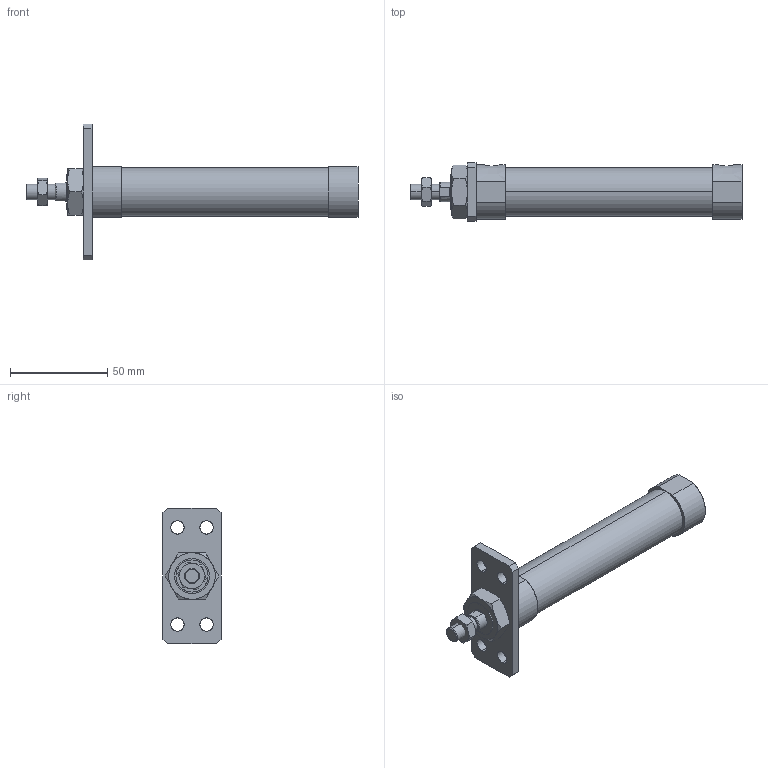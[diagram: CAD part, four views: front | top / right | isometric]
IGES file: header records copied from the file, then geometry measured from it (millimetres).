
Start section: SolidWorks IGES file using analytic representation for surfaces
Global section: file name: C:\Users\Toshiba\Desktop\JGND2-20-75-A.IGS; native system: SolidWorks 2014; preprocessor: SolidWorks 2014; author: Toshiba; date: 160804.102408; units: millimetre
Bounding box: 171 x 30 x 70 mm (x, y, z)
Surface area: 21453.5 mm2 (no closed solid volume)
Topology: 0 solids, 0 shells, 104 faces, 1876 edges, 1876 vertices
Faces by surface type: bspline 68, revolution 36
